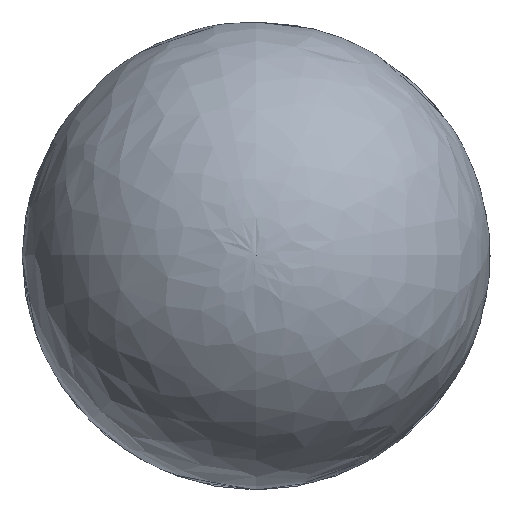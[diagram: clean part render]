
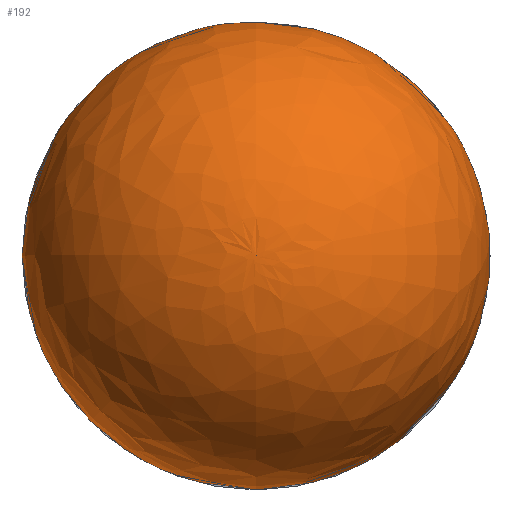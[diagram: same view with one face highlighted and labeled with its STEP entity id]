
A CAD part, top view. The second image highlights one B-rep face of the part: STEP entity #192.
In plain terms, the highlighted free-form (B-spline) face has degree [2, 2] with [5, 9] control points.
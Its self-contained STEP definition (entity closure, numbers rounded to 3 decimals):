
#13=(
BOUNDED_SURFACE()
B_SPLINE_SURFACE(2,2,((#361,#362,#363,#364,#365,#366,#367,#368,#369),(#370,
#371,#372,#373,#374,#375,#376,#377,#378),(#379,#380,#381,#382,#383,#384,
#385,#386,#387),(#388,#389,#390,#391,#392,#393,#394,#395,#396),(#397,#398,
#399,#400,#401,#402,#403,#404,#405)),.UNSPECIFIED.,.F.,.T.,.F.)
B_SPLINE_SURFACE_WITH_KNOTS((3,2,3),(3,2,2,2,3),(-1.243,0.164,
1.572),(-3.142,-1.571,0.,1.571,
3.142),.UNSPECIFIED.)
GEOMETRIC_REPRESENTATION_ITEM()
RATIONAL_B_SPLINE_SURFACE(((1.,0.707,1.,0.707,1.,
0.707,1.,0.707,1.),(0.762,0.539,
0.762,0.539,0.762,0.539,
0.762,0.539,0.762),(1.,0.707,
1.,0.707,1.,0.707,1.,0.707,1.),(0.762,
0.539,0.762,0.539,0.762,
0.539,0.762,0.539,0.762),
(1.,0.707,1.,0.707,1.,0.707,1.,0.707,
1.)))
REPRESENTATION_ITEM('')
SURFACE()
);
#53=FACE_OUTER_BOUND('',#70,.T.);
#70=EDGE_LOOP('',(#162,#163,#164));
#86=CIRCLE('',#243,40.375);
#88=CIRCLE('',#245,125.);
#104=VERTEX_POINT('',#358);
#105=VERTEX_POINT('',#406);
#124=EDGE_CURVE('',#104,#104,#86,.T.);
#126=EDGE_CURVE('',#105,#104,#88,.T.);
#162=ORIENTED_EDGE('',*,*,#126,.T.);
#163=ORIENTED_EDGE('',*,*,#124,.T.);
#164=ORIENTED_EDGE('',*,*,#126,.F.);
#192=ADVANCED_FACE('',(#53),#13,.F.);
#243=AXIS2_PLACEMENT_3D('',#359,#299,#300);
#245=AXIS2_PLACEMENT_3D('',#407,#303,#304);
#299=DIRECTION('center_axis',(0.,0.,
1.));
#300=DIRECTION('ref_axis',(1.,0.,0.));
#303=DIRECTION('center_axis',(-1.,0.,0.));
#304=DIRECTION('ref_axis',(0.,1.,0.));
#358=CARTESIAN_POINT('',(0.,40.375,11.102));
#359=CARTESIAN_POINT('Origin',(0.,0.,11.102));
#361=CARTESIAN_POINT('Ctrl Pts',(0.,40.375,
11.102));
#362=CARTESIAN_POINT('Ctrl Pts',(-40.375,40.375,11.102));
#363=CARTESIAN_POINT('Ctrl Pts',(-40.375,0.,
11.102));
#364=CARTESIAN_POINT('Ctrl Pts',(-40.375,-40.375,11.102));
#365=CARTESIAN_POINT('Ctrl Pts',(0.,-40.375,
11.102));
#366=CARTESIAN_POINT('Ctrl Pts',(40.375,-40.375,11.102));
#367=CARTESIAN_POINT('Ctrl Pts',(40.375,0.,
11.102));
#368=CARTESIAN_POINT('Ctrl Pts',(40.375,40.375,11.102));
#369=CARTESIAN_POINT('Ctrl Pts',(0.,40.375,
11.102));
#370=CARTESIAN_POINT('Ctrl Pts',(0.,140.786,45.267));
#371=CARTESIAN_POINT('Ctrl Pts',(-140.786,140.786,45.267));
#372=CARTESIAN_POINT('Ctrl Pts',(-140.786,0.,
45.267));
#373=CARTESIAN_POINT('Ctrl Pts',(-140.786,-140.786,45.267));
#374=CARTESIAN_POINT('Ctrl Pts',(0.,-140.786,
45.267));
#375=CARTESIAN_POINT('Ctrl Pts',(140.786,-140.786,45.267));
#376=CARTESIAN_POINT('Ctrl Pts',(140.786,0.,
45.267));
#377=CARTESIAN_POINT('Ctrl Pts',(140.786,140.786,45.267));
#378=CARTESIAN_POINT('Ctrl Pts',(0.,140.786,45.267));
#379=CARTESIAN_POINT('Ctrl Pts',(0.,123.425,
149.901));
#380=CARTESIAN_POINT('Ctrl Pts',(-123.425,123.425,149.901));
#381=CARTESIAN_POINT('Ctrl Pts',(-123.425,0.,
149.901));
#382=CARTESIAN_POINT('Ctrl Pts',(-123.425,-123.425,149.901));
#383=CARTESIAN_POINT('Ctrl Pts',(0.,-123.425,
149.901));
#384=CARTESIAN_POINT('Ctrl Pts',(123.425,-123.425,149.901));
#385=CARTESIAN_POINT('Ctrl Pts',(123.425,0.,
149.901));
#386=CARTESIAN_POINT('Ctrl Pts',(123.425,123.425,149.901));
#387=CARTESIAN_POINT('Ctrl Pts',(0.,123.425,
149.901));
#388=CARTESIAN_POINT('Ctrl Pts',(0.,106.064,
254.534));
#389=CARTESIAN_POINT('Ctrl Pts',(-106.064,106.064,254.534));
#390=CARTESIAN_POINT('Ctrl Pts',(-106.064,0.,
254.534));
#391=CARTESIAN_POINT('Ctrl Pts',(-106.064,-106.064,254.534));
#392=CARTESIAN_POINT('Ctrl Pts',(0.,-106.064,
254.534));
#393=CARTESIAN_POINT('Ctrl Pts',(106.064,-106.064,254.534));
#394=CARTESIAN_POINT('Ctrl Pts',(106.064,0.,
254.534));
#395=CARTESIAN_POINT('Ctrl Pts',(106.064,106.064,254.534));
#396=CARTESIAN_POINT('Ctrl Pts',(0.,106.064,
254.534));
#397=CARTESIAN_POINT('Ctrl Pts',(0.,0.,
254.44));
#398=CARTESIAN_POINT('Ctrl Pts',(0.,0.,
254.44));
#399=CARTESIAN_POINT('Ctrl Pts',(0.,0.,
254.44));
#400=CARTESIAN_POINT('Ctrl Pts',(0.,0.,
254.44));
#401=CARTESIAN_POINT('Ctrl Pts',(0.,0.,
254.44));
#402=CARTESIAN_POINT('Ctrl Pts',(0.,0.,
254.44));
#403=CARTESIAN_POINT('Ctrl Pts',(0.,0.,
254.44));
#404=CARTESIAN_POINT('Ctrl Pts',(0.,0.,
254.44));
#405=CARTESIAN_POINT('Ctrl Pts',(0.,0.,
254.44));
#406=CARTESIAN_POINT('',(0.,0.,254.44));
#407=CARTESIAN_POINT('Origin',(0.,0.111,129.44));
